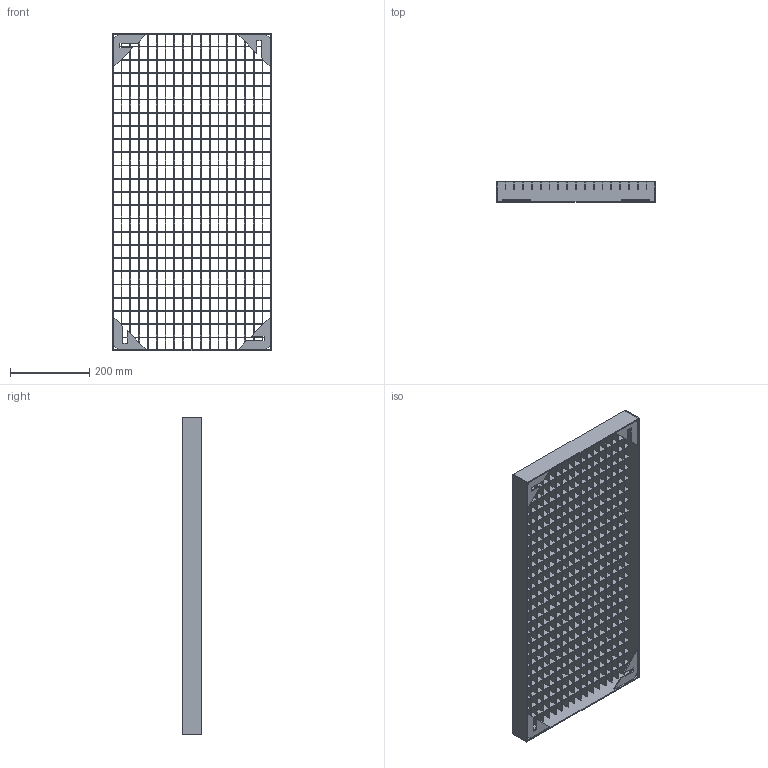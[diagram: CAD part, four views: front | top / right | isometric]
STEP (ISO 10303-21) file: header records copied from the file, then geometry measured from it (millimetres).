
FILE_DESCRIPTION (( 'STEP AP203' ), '1' );
FILE_NAME ('11012408G_Trinrist_400x800_20x30_20x2_mm_.STEP', '2014-12-19T10:01:38', ( '' ), ( '' ), 'SwSTEP 2.0', 'SolidWorks 2013', '' );
FILE_SCHEMA (( 'CONFIG_CONTROL_DESIGN' ));
Length unit declared in the file: millimetre
Products named in the file (6): 11012408G_Trinrist_400x800_20x30_20x2_mm_; 11012408G_Ribbe_20x2x394_mm_; 11012408G_Tvaerstav_20x2x794_mm_; 11012408G_Kantstaal_50x3x394_mm_; 11012408G_Kantstaal_50x3x800_mm_; 11012408G_Hjoernebeslag_80x80x3_mm_
Assembly tree (48 placements, depth 2):
  11012408G_Trinrist_400x800_20x30_20x2_mm_
    11012408G_Ribbe_20x2x394_mm_  x23
    11012408G_Tvaerstav_20x2x794_mm_  x17
    11012408G_Kantstaal_50x3x394_mm_  x2
    11012408G_Kantstaal_50x3x800_mm_  x2
    11012408G_Hjoernebeslag_80x80x3_mm_  x4
Bounding box: 400 x 50 x 800 mm (x, y, z)
Volume: 1263344.9 mm3; surface area: 1276958.2 mm2
Topology: 48 solids, 48 shells, 3432 faces, 10008 edges, 6672 vertices
Faces by surface type: plane 3432
Entity records: 8184 total; most frequent: CARTESIAN_POINT 1165, ORIENTED_EDGE 1104, DIRECTION 1042, EDGE_CURVE 552, LINE 552, VECTOR 552, VERTEX_POINT 368, AXIS2_PLACEMENT_3D 245
